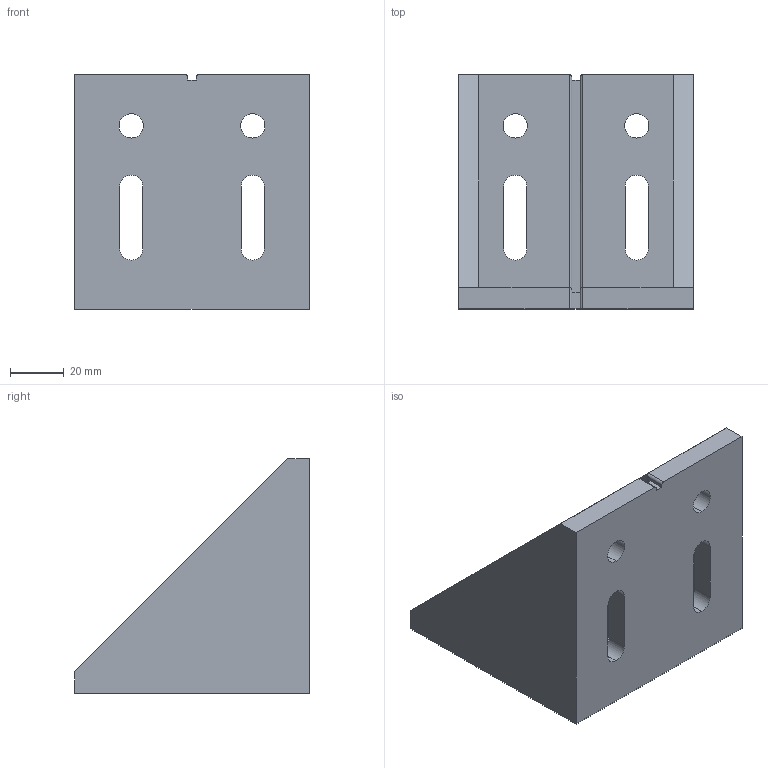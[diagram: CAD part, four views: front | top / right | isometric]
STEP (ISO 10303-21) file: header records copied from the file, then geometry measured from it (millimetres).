
FILE_DESCRIPTION (( 'STEP AP203' ), '1' );
FILE_NAME ('084.305.005.STEP', '2013-01-23T08:43:16', ( 'Alusic' ), ( 'Alusic' ), 'SwSTEP 2.0', 'SolidWorks 2011', '' );
FILE_SCHEMA (( 'CONFIG_CONTROL_DESIGN' ));
Length unit declared in the file: millimetre
Products named in the file (1): 084.305.005
Bounding box: 87 x 87 x 87 mm (x, y, z)
Volume: 151129.4 mm3; surface area: 45937.7 mm2
Topology: 1 solids, 1 shells, 56 faces, 152 edges, 98 vertices
Faces by surface type: plane 30, cylinder 26
Entity records: 1865 total; most frequent: CARTESIAN_POINT 325, ORIENTED_EDGE 304, DIRECTION 300, EDGE_CURVE 152, VECTOR 106, LINE 106, VERTEX_POINT 98, AXIS2_PLACEMENT_3D 97
